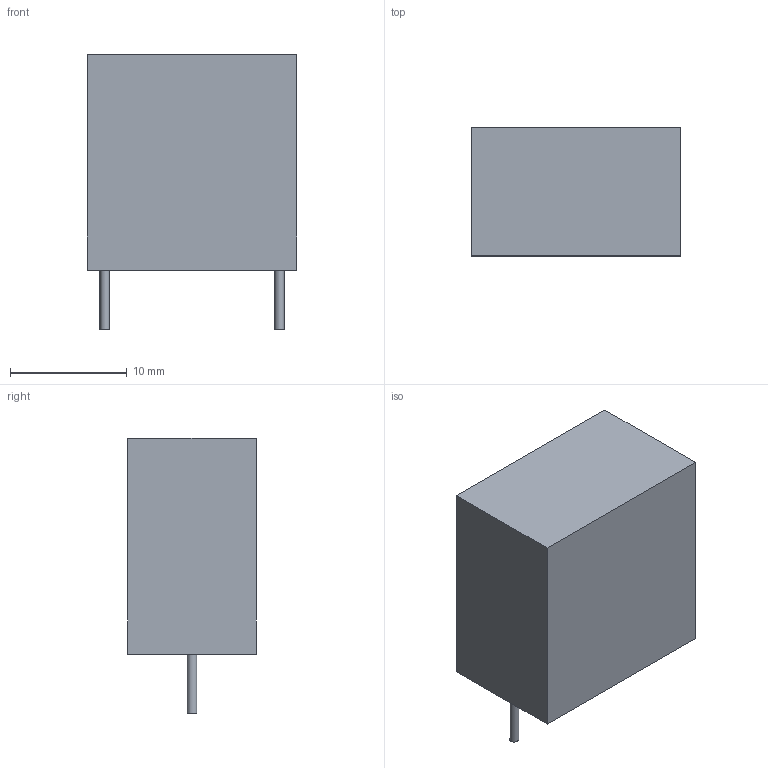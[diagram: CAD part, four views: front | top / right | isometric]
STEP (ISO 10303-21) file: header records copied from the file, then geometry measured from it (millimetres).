
FILE_DESCRIPTION(('FreeCAD Model'),'2;1');
FILE_NAME('/var/www/3D/0T/11571100.5.1.stp','2023-07-09T22:40:07',( 'Author'),(''),'Open CASCADE STEP processor 6.9','FreeCAD','Unknown' );
FILE_SCHEMA(('AUTOMOTIVE_DESIGN { 1 0 10303 214 1 1 1 1 }'));
Length unit declared in the file: millimetre
Products named in the file (3): ASSEMBLY; Body; Leads
Assembly tree (2 placements, depth 2):
  ASSEMBLY
    Body
    Leads
Bounding box: 18 x 11 x 23.6 mm (x, y, z)
Volume: 3668.1 mm3; surface area: 1496.6 mm2
Topology: 3 solids, 3 shells, 12 faces, 18 edges, 12 vertices
Faces by surface type: plane 10, cylinder 2
Full cylindrical faces by diameter (mm): 0.8 x2
Entity records: 573 total; most frequent: DIRECTION 88, CARTESIAN_POINT 81, LINE 46, VECTOR 46, ORIENTED_EDGE 36, PCURVE 36, DEFINITIONAL_REPRESENTATION 36, AXIS2_PLACEMENT_3D 19
